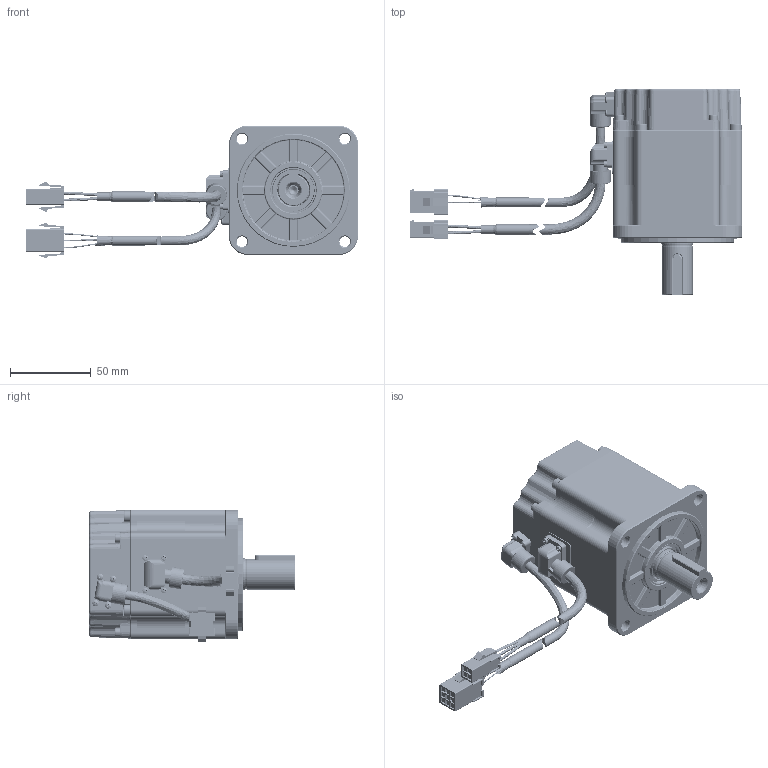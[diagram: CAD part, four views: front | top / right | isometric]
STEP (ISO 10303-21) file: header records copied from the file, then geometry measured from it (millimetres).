
FILE_DESCRIPTION (( 'STEP AP203' ), '1' );
FILE_NAME ('80µç»ú_DM2A-08A80I8S.STEP', '2025-04-07T00:43:04', ( 'MIDEA' ), ( 'MIDEA' ), 'SwSTEP 2.0', 'SolidWorks 2020', '' );
FILE_SCHEMA (( 'CONFIG_CONTROL_DESIGN' ));
Length unit declared in the file: millimetre
Products named in the file (36): 十字槽小盘头螺钉弹垫平垫组合件-M2x6-8.8级-镀锌镍合金（黑）(GBT 9074 ）; 23BIT_EN_PH3_蕼偞; 80萇儂_DM2A-08A80I8S; DZ08A80DM2A; GJ08A80DM2A; Z08A80DM3; 80隅赽軞傖_DZ08A80DM2A; 1012100-0154_濮揤諉盄傷赽_OT1-2; 1022500-0075_深沟球轴承_6201ZZCM-L448（TPI）; 1030204-0035_脣釱AMP-172159-1_4.14蟀諉ん譫芛4P; 2010200-0239_十字自挤螺钉M2x6_十字槽盘头自挤螺钉-M2x6+镀锌镍合金（黑）（GBT 6560）; 80蛌赽郪璃_ZZ08A80DM3; 3020105-0047_80编码器成品_80编码器组件（DM1黑色后罩壳 锐鹰多圈16位单圈17位分体式绝对值磁性编码器 外径46 出线30）; 2010100-0180_内六角圆柱头螺钉-M3x10-8.8级-镀锌镍合金+耐落(GB-T 70.1); 80綴傷裔禱矗_HDG08A80PH3M; 1022600-0015_嘎殤蚐猾_TC22327(NAK-NBR)-6004; 1030204-0036_脣釱172161-1_4.14蟀諉ん譫芛9P; DM2A 750Wぽ婦盄; 1022700-0043_80躇猾菜_MFD08A80DM1; 1030104-0045_4芯线_418AWG  红，白，黑，黄绿; 1022500-0深沟球轴承_6004ZZCM-L448（TPI）; 2011200-00_疏倛粟銅-41x31x0.25; 80珨极褲_YTK08A80DM3; 2010100-0181_内六角圆柱头螺钉-M4x16-8.8级-镀锌镍合金+耐落(GB-T 70.1); 80珨极褲禱矗_YTK08A80DM2AM; 1022900-0063_陓瘍盄嘐隅芛_SC-MC7S-A1-3; 80棠詩_CG08A80DM3; 隅赽濎沺郋_DETX08A80DM2A; 3026800-0040_雄薯盄_DB-040; 3021200-0019_80后罩壳（黑色）_HZK08A80DM1M-H; 2010500-0092_す瑩-B6x6x22-湍M3れ瑩蹟恇謂(GB-T 1096-2003); HDG08A80PH3; 晤鎢ん陓瘍盄; 80隅赽喘沺郋_DCTX08A80DM2A; 1022900-0062_雄薯盄嘐隅芛_SC-MC4S-A1-3
Assembly tree (66 placements, depth 4):
  80萇儂_DM2A-08A80I8S
    80隅赽軞傖_DZ08A80DM2A
      80隅赽喘沺郋_DCTX08A80DM2A
      隅赽濎沺郋_DETX08A80DM2A
      DZ08A80DM2A
        DM2A 750Wぽ婦盄
      80珨极褲_YTK08A80DM3
        80珨极褲禱矗_YTK08A80DM2AM
      3026800-0040_雄薯盄_DB-040
        1022900-0062_雄薯盄嘐隅芛_SC-MC4S-A1-3
        1030204-0035_脣釱AMP-172159-1_4.14蟀諉ん譫芛4P
        1030104-0045_4芯线_418AWG  红，白，黑，黄绿
        1012100-0154_濮揤諉盄傷赽_OT1-2
      DZ08A80DM2A  x11
        DM2A 750Wぽ婦盄
        GJ08A80DM2A
    80蛌赽郪璃_ZZ08A80DM3
      Z08A80DM3
      80棠詩_CG08A80DM3  x9
    1022500-0075_深沟球轴承_6201ZZCM-L448（TPI）
    1022500-0深沟球轴承_6004ZZCM-L448（TPI）
    1022700-0043_80躇猾菜_MFD08A80DM1
    3020105-0047_80编码器成品_80编码器组件（DM1黑色后罩壳 锐鹰多圈16位单圈17位分体式绝对值磁性编码器 外径46 出线30）
      3021200-0019_80后罩壳（黑色）_HZK08A80DM1M-H
      1022900-0063_陓瘍盄嘐隅芛_SC-MC7S-A1-3
      1030204-0036_脣釱172161-1_4.14蟀諉ん譫芛9P
      2010200-0239_十字自挤螺钉M2x6_十字槽盘头自挤螺钉-M2x6+镀锌镍合金（黑）（GBT 6560）  x4
      晤鎢ん陓瘍盄
    2010100-0180_内六角圆柱头螺钉-M3x10-8.8级-镀锌镍合金+耐落(GB-T 70.1)  x4
    十字槽小盘头螺钉弹垫平垫组合件-M2x6-8.8级-镀锌镍合金（黑）(GBT 9074 ）  x4
    1022600-0015_嘎殤蚐猾_TC22327(NAK-NBR)-6004
    2011200-00_疏倛粟銅-41x31x0.25
    HDG08A80PH3
      80綴傷裔禱矗_HDG08A80PH3M
    2010100-0181_内六角圆柱头螺钉-M4x16-8.8级-镀锌镍合金+耐落(GB-T 70.1)  x4
    23BIT_EN_PH3_蕼偞
    2010500-0092_す瑩-B6x6x22-湍M3れ瑩蹟恇謂(GB-T 1096-2003)
Bounding box: 205.5 x 127.4 x 82.11 mm (x, y, z)
Volume: 333891.9 mm3; surface area: 297887.6 mm2
Topology: 832 solids, 832 shells, 18342 faces, 43414 edges, 25874 vertices
Faces by surface type: cylinder 6999, plane 5820, torus 3414, bspline 1612, cone 284, sphere 213
Full cylindrical faces by diameter (mm): 0.2 x2, 0.52 x3720, 0.8 x13, 1 x35, 1.2 x4, 1.6 x10, 1.75 x4, 1.8 x16, 2 x14, 2.2 x7, 2.3 x4, 2.4 x3, 2.5 x9, 3 x6, 3.3 x4, 3.5 x4, 3.6 x2, 4 x10, 4.5 x4, 4.65 x4, 4.71 x1, 5 x2, 5.2 x1, 5.5 x5, 5.8 x4, 6 x7, 6.4 x4, 6.5 x2, 6.6 x5, 7 x4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
Entity records: 324568 total; most frequent: CARTESIAN_POINT 111622, ORIENTED_EDGE 43564, DIRECTION 40021, EDGE_CURVE 21782, VERTEX_POINT 14636, VECTOR 13587, LINE 13587, AXIS2_PLACEMENT_3D 13217
